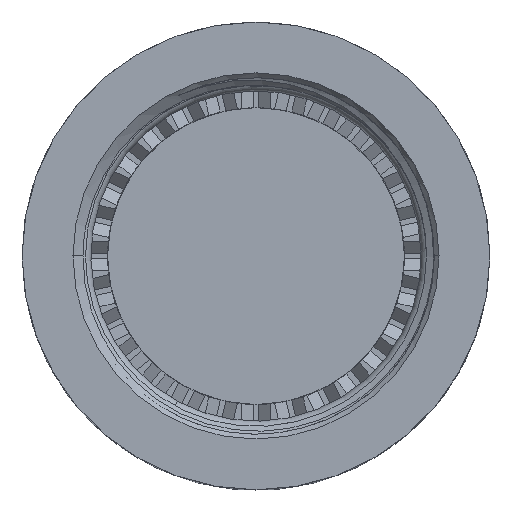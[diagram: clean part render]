
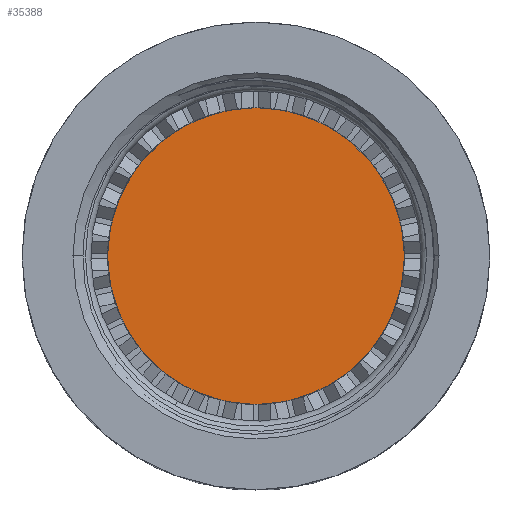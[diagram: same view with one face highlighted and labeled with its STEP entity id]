
A CAD part, top view. The second image highlights one B-rep face of the part: STEP entity #35388.
In plain terms, the highlighted planar face has unit normal (0, 0, 1).
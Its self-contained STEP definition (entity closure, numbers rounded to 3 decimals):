
#2059 = DIRECTION ( 'NONE',  ( -1., 0., 0. ) ) ;
#2251 = CARTESIAN_POINT ( 'NONE',  ( 0., 0., -1.787 ) ) ;
#2853 = DIRECTION ( 'NONE',  ( 0., 0., 1. ) ) ;
#5673 = DIRECTION ( 'NONE',  ( 0., 0., -1. ) ) ;
#5719 = AXIS2_PLACEMENT_3D ( 'NONE', #7514, #7712, #14067 ) ;
#6152 = CIRCLE ( 'NONE', #22729, 10.338 ) ;
#7024 = EDGE_LOOP ( 'NONE', ( #14288, #39105 ) ) ;
#7514 = CARTESIAN_POINT ( 'NONE',  ( 0., 0., -1.787 ) ) ;
#7712 = DIRECTION ( 'NONE',  ( 0., 0., 1. ) ) ;
#8291 = DIRECTION ( 'NONE',  ( -1., 0., 0. ) ) ;
#12083 = PLANE ( 'NONE',  #17590 ) ;
#14067 = DIRECTION ( 'NONE',  ( -1., 0., 0. ) ) ;
#14288 = ORIENTED_EDGE ( 'NONE', *, *, #32680, .T. ) ;
#16036 = VERTEX_POINT ( 'NONE', #28476 ) ;
#17590 = AXIS2_PLACEMENT_3D ( 'NONE', #23850, #5673, #8291 ) ;
#22729 = AXIS2_PLACEMENT_3D ( 'NONE', #2251, #2853, #2059 ) ;
#23850 = CARTESIAN_POINT ( 'NONE',  ( 0., 14.057, -1.787 ) ) ;
#28476 = CARTESIAN_POINT ( 'NONE',  ( 10.338, 0., -1.787 ) ) ;
#29343 = CIRCLE ( 'NONE', #5719, 10.338 ) ;
#30067 = FACE_OUTER_BOUND ( 'NONE', #7024, .T. ) ;
#30884 = VERTEX_POINT ( 'NONE', #37403 ) ;
#32680 = EDGE_CURVE ( 'NONE', #16036, #30884, #29343, .T. ) ;
#35388 = ADVANCED_FACE ( 'NONE', ( #30067 ), #12083, .F. ) ;
#35391 = EDGE_CURVE ( 'NONE', #30884, #16036, #6152, .T. ) ;
#37403 = CARTESIAN_POINT ( 'NONE',  ( -10.338, 0., -1.787 ) ) ;
#39105 = ORIENTED_EDGE ( 'NONE', *, *, #35391, .T. ) ;
